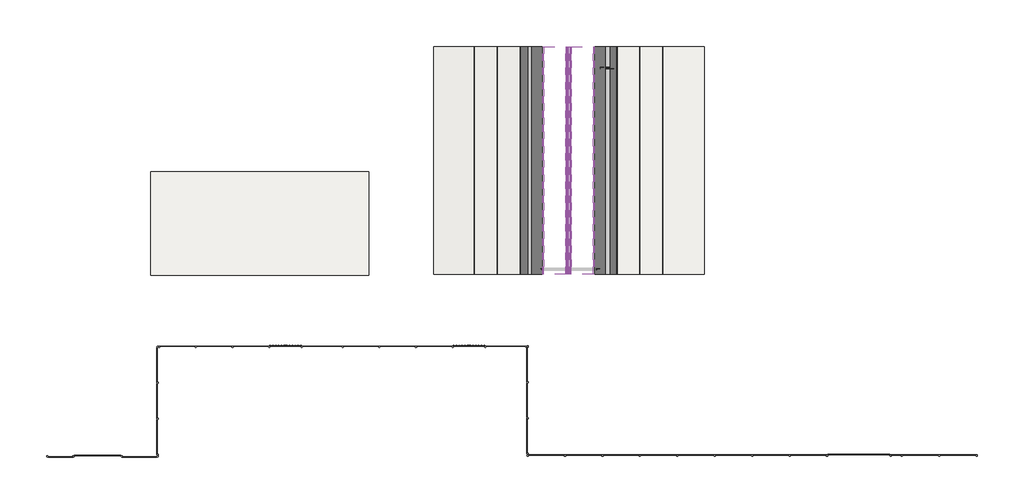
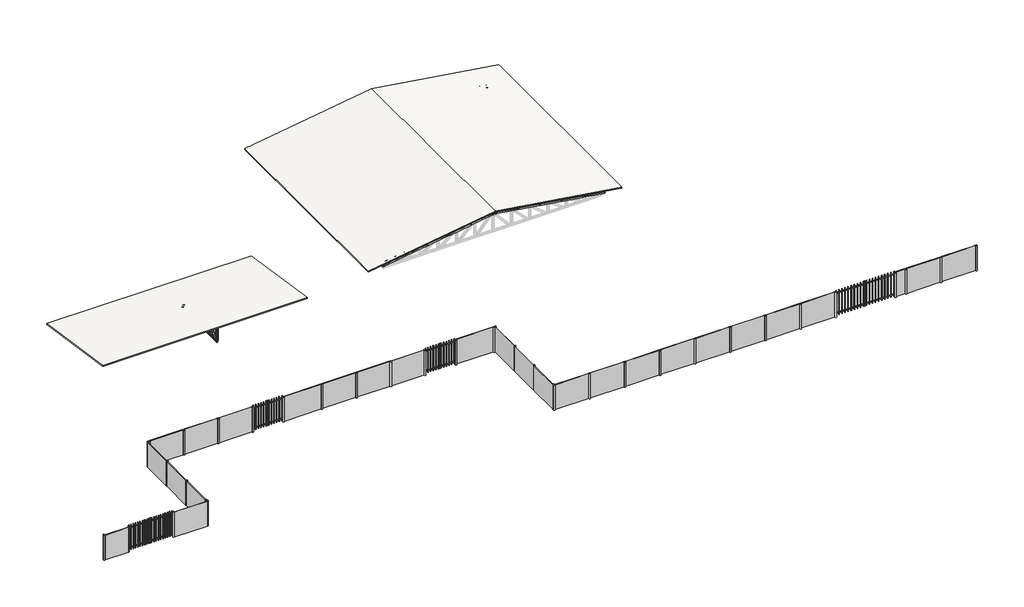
# One storey, part 1 of 3: 50 members, 39 plates, 12 beams, 4 doors, 2 roofs.
"""IFC4 building model written with IfcOpenShell, lengths in millimetres."""

from ifc_helpers import new_model, si_unit, point, frame, frame_2d, origin, place, context, project, spatial, polyline, circle_curve, trimmed, segment, composite_curve, outline, extrude, transform, mapped, element, save
from components import viga_c_10x10_58e1816c, viga_c_10x10_f8df9bf3, viga_c_10x10_b119d5ce, viga_c_10x10_62381ca0, viga_c_10x10_21cc423c, viga_c_10x10_41a7a066, viga_c_10x10_7d580f23, viga_c_10x10_08cb0fda, viga_c_10x10_b1578972, viga_c_10x10_ea181fc1, viga_c_10x10_0ee3ced8, door_7768011b, door_243d3cfc, door_13d7e7a6, montante_circular_50_mm_raio_659bf2f8, montante_circular_50_mm_raio_0fca540c, rectangular_mullion_12f81c36, rectangular_mullion_9b6f6b78, rectangular_mullion_457512c9, empty_system_panel_empty_771d9a7e, empty_system_panel_empty_a278fc1e, painel_do_sistema_5932a089, painel_do_sistema_ab7bcafd, painel_do_sistema_f98686fd, painel_do_sistema_e56fb110, painel_do_sistema_0934ba3d, painel_do_sistema_98f25257, painel_do_sistema_57f9a749, painel_do_sistema_0fee1ea1

model = new_model("IFC4")

# Units and contexts
model_context = context("Model", 3, world=origin())
ifc_project = project(units=[si_unit("LENGTHUNIT", "METRE", prefix="MILLI")], contexts=[model_context])

# Site, building, storey
site = spatial("IfcSite", under=ifc_project)
building = spatial("IfcBuilding", under=site)
storey = spatial("IfcBuildingStorey", under=building, Name="NÍVEL PLATIBANDA", Elevation=4700.0)

# Beams
placement = place(None, origin())
element("IfcBeam", 1, ObjectType="VIGA PERFIL C AÇO : VIGA C 10X10", at=placement, inside=storey, context=model_context, shape_type="SweptSolid", body=[
    extrude(outline(composite_curve([segment(trimmed(circle_curve(frame_2d((-3778.5798161, -3482.8461532)), 3.8), [point((-3782.3798161, -3482.8461532))], [point((-3778.5798161, -3479.0461532))], False, "CARTESIAN"), True, "CONTINUOUS"), segment(polyline([(-3778.5798161, -3479.0461532), (-3686.1798161, -3479.0461532)]), True, "CONTINUOUS"), segment(trimmed(circle_curve(frame_2d((-3686.1798161, -3482.8461532)), 3.8), [point((-3686.1798161, -3479.0461532))], [point((-3682.3798161, -3482.8461532))], False, "CARTESIAN"), True, "CONTINUOUS"), segment(polyline([(-3682.3798161, -3482.8461532), (-3682.3798161, -3499.0461532), (-3684.2798161, -3499.0461532), (-3684.2798161, -3482.8461532)]), True, "CONTINUOUS"), segment(trimmed(circle_curve(frame_2d((-3686.1798161, -3482.8461532)), 1.9), [point((-3684.2798161, -3482.8461532))], [point((-3686.1798161, -3480.9461532))], True, "CARTESIAN"), True, "CONTINUOUS"), segment(polyline([(-3686.1798161, -3480.9461532), (-3778.5798161, -3480.9461532)]), True, "CONTINUOUS"), segment(trimmed(circle_curve(frame_2d((-3778.5798161, -3482.8461532)), 1.9), [point((-3778.5798161, -3480.9461532))], [point((-3780.4798161, -3482.8461532))], True, "CARTESIAN"), True, "CONTINUOUS"), segment(polyline([(-3780.4798161, -3482.8461532), (-3780.4798161, -3575.2461532)]), True, "CONTINUOUS"), segment(trimmed(circle_curve(frame_2d((-3778.5798161, -3575.2461532)), 1.9), [point((-3780.4798161, -3575.2461532))], [point((-3778.5798161, -3577.1461532))], True, "CARTESIAN"), True, "CONTINUOUS"), segment(polyline([(-3778.5798161, -3577.1461532), (-3686.1798161, -3577.1461532)]), True, "CONTINUOUS"), segment(trimmed(circle_curve(frame_2d((-3686.1798161, -3575.2461532)), 1.9), [point((-3686.1798161, -3577.1461532))], [point((-3684.2798161, -3575.2461532))], True, "CARTESIAN"), True, "CONTINUOUS"), segment(polyline([(-3684.2798161, -3575.2461532), (-3684.2798161, -3559.0461532), (-3682.3798161, -3559.0461532), (-3682.3798161, -3575.2461532)]), True, "CONTINUOUS"), segment(trimmed(circle_curve(frame_2d((-3686.1798161, -3575.2461532)), 3.8), [point((-3682.3798161, -3575.2461532))], [point((-3686.1798161, -3579.0461532))], False, "CARTESIAN"), True, "CONTINUOUS"), segment(polyline([(-3686.1798161, -3579.0461532), (-3778.5798161, -3579.0461532)]), True, "CONTINUOUS"), segment(trimmed(circle_curve(frame_2d((-3778.5798161, -3575.2461532)), 3.8), [point((-3778.5798161, -3579.0461532))], [point((-3782.3798161, -3575.2461532))], False, "CARTESIAN"), True, "CONTINUOUS"), segment(polyline([(-3782.3798161, -3575.2461532), (-3782.3798161, -3482.8461532)]), True, "CONTINUOUS")], self_intersect=False)), frame((0.0, 0.0, 4804.3625534), z_axis=(0.0, 0.0, 1.0), x_axis=(1.0, 0.0, 0.0)), (0.0, 0.0, 1.0), 238.0),
    extrude(outline(polyline([(-3782.3798161, -3479.0461532), (-3682.3798161, -3479.0461532), (-3682.3798161, -3499.0461532), (-3684.2798161, -3499.0461532), (-3684.2798161, -3480.9461532), (-3780.4798161, -3480.9461532), (-3780.4798161, -3577.1461532), (-3684.2798161, -3577.1461532), (-3684.2798161, -3559.0461532), (-3682.3798161, -3559.0461532), (-3682.3798161, -3579.0461532), (-3782.3798161, -3579.0461532), (-3782.3798161, -3479.0461532)])), frame((0.0, 0.0, 4804.3625534), z_axis=(0.0, 0.0, 1.0), x_axis=(1.0, 0.0, 0.0)), (0.0, 0.0, 1.0), 238.0),
])
viga_c_10x10_shape = viga_c_10x10_58e1816c(model_context)
element("IfcBeam", 2, ObjectType="VIGA PERFIL C AÇO : VIGA C 10X10", at=placement, inside=storey, context=model_context, shape_type="MappedRepresentation", body=[
    mapped(viga_c_10x10_shape, transform((-15299.1331456, -1163.331442, 3550.0), x_axis=(0.0, 1.0, 0.0), y_axis=(0.0, 0.0, -1.0), z_axis=(-1.0, 0.0, 0.0))),
])
viga_c_10x10_2_shape = viga_c_10x10_f8df9bf3(model_context)
element("IfcBeam", 3, ObjectType="VIGA PERFIL C AÇO : VIGA C 10X10", at=placement, inside=storey, context=model_context, shape_type="MappedRepresentation", body=[
    mapped(viga_c_10x10_2_shape, transform((-15299.1331456, -576.3065507, 4065.1541708), x_axis=(0.0, 0.9889363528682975, -0.14834045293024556), y_axis=(0.0, 0.14834045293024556, 0.9889363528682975), z_axis=(1.0000000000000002, 0.0, 0.0))),
])
viga_c_10x10_3_shape = viga_c_10x10_b119d5ce(model_context)
element("IfcBeam", 4, ObjectType="VIGA PERFIL C AÇO : VIGA C 10X10", at=placement, inside=storey, context=model_context, shape_type="MappedRepresentation", body=[
    mapped(viga_c_10x10_3_shape, transform((-15299.1331456, -256.6647753, 3783.6039522), x_axis=(0.0, 0.0, 1.0), y_axis=(0.0, -1.0, 0.0), z_axis=(1.0, 0.0, 0.0))),
])
viga_c_10x10_4_shape = viga_c_10x10_62381ca0(model_context)
element("IfcBeam", 5, ObjectType="VIGA PERFIL C AÇO : VIGA C 10X10", at=placement, inside=storey, context=model_context, shape_type="MappedRepresentation", body=[
    mapped(viga_c_10x10_4_shape, transform((-15299.1331456, -2976.6647753, 3987.6039522), x_axis=(0.0, 0.0, 1.0), y_axis=(0.0, -1.0, 0.0), z_axis=(1.0, 0.0, 0.0))),
])
viga_c_10x10_5_shape = viga_c_10x10_21cc423c(model_context)
element("IfcBeam", 6, ObjectType="VIGA PERFIL C AÇO : VIGA C 10X10", at=placement, inside=storey, context=model_context, shape_type="MappedRepresentation", body=[
    mapped(viga_c_10x10_5_shape, transform((-15299.1331456, -3883.331442, 4055.6039522), x_axis=(0.0, 0.0, 1.0), y_axis=(0.0, -1.0, 0.0), z_axis=(1.0, 0.0, 0.0))),
])
viga_c_10x10_6_shape = viga_c_10x10_41a7a066(model_context)
element("IfcBeam", 7, ObjectType="VIGA PERFIL C AÇO : VIGA C 10X10", at=placement, inside=storey, context=model_context, shape_type="MappedRepresentation", body=[
    mapped(viga_c_10x10_6_shape, transform((-15299.1331456, -2069.9981086, 3919.6039522), x_axis=(0.0, 0.0, 1.0), y_axis=(0.0, -1.0, 0.0), z_axis=(1.0, 0.0, 0.0))),
])
viga_c_10x10_7_shape = viga_c_10x10_7d580f23(model_context)
element("IfcBeam", 8, ObjectType="VIGA PERFIL C AÇO : VIGA C 10X10", at=placement, inside=storey, context=model_context, shape_type="MappedRepresentation", body=[
    mapped(viga_c_10x10_7_shape, transform((-15299.1331456, -1163.331442, 3851.6039522), x_axis=(0.0, 0.0, 1.0), y_axis=(0.0, -1.0, 0.0), z_axis=(1.0, 0.0, 0.0))),
])
viga_c_10x10_8_shape = viga_c_10x10_08cb0fda(model_context)
element("IfcBeam", 9, ObjectType="VIGA PERFIL C AÇO : VIGA C 10X10", at=placement, inside=storey, context=model_context, shape_type="MappedRepresentation", body=[
    mapped(viga_c_10x10_8_shape, transform((-15299.1331456, -709.9981086, 3851.6039522), x_axis=(0.0, 0.832573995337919, -0.5539138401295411), y_axis=(0.0, 0.5539138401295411, 0.832573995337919), z_axis=(1.0, 0.0, 0.0))),
])
viga_c_10x10_9_shape = viga_c_10x10_b1578972(model_context)
element("IfcBeam", 10, ObjectType="VIGA PERFIL C AÇO : VIGA C 10X10", at=placement, inside=storey, context=model_context, shape_type="MappedRepresentation", body=[
    mapped(viga_c_10x10_9_shape, transform((-15299.1331456, -2523.331442, 3919.6039522), x_axis=(0.0, 0.775049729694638, 0.6319002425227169), y_axis=(0.0, -0.6319002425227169, 0.775049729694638), z_axis=(1.0, 0.0, 0.0))),
])
viga_c_10x10_10_shape = viga_c_10x10_ea181fc1(model_context)
element("IfcBeam", 11, ObjectType="VIGA PERFIL C AÇO : VIGA C 10X10", at=placement, inside=storey, context=model_context, shape_type="MappedRepresentation", body=[
    mapped(viga_c_10x10_10_shape, transform((-15299.1331456, -3429.9981086, 3987.6039522), x_axis=(0.0, 0.7194785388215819, 0.6945146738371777), y_axis=(0.0, -0.6945146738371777, 0.7194785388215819), z_axis=(1.0, 0.0, 0.0))),
])
viga_c_10x10_11_shape = viga_c_10x10_0ee3ced8(model_context)
element("IfcBeam", 12, ObjectType="VIGA PERFIL C AÇO : VIGA C 10X10", at=placement, inside=storey, context=model_context, shape_type="MappedRepresentation", body=[
    mapped(viga_c_10x10_11_shape, transform((-15299.1331456, -1616.6647753, 3851.6039522), x_axis=(0.0, 0.832573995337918, 0.5539138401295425), y_axis=(0.0, -0.5539138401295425, 0.832573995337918), z_axis=(1.0, 0.0, 0.0))),
])

# Doors
door_shape = door_7768011b(model_context)
element("IfcDoor", 13, ObjectType="PORTÃO DUPLO PAREDE CORTINA : PORTÃO DUPLO 4M", at=placement, inside=storey, context=model_context, shape_type="MappedRepresentation", body=[
    mapped(door_shape, transform((22436.7026381, -15523.3631447, -50.0), x_axis=(1.0, 0.0, 0.0), y_axis=(0.0, 1.0, 0.0), z_axis=(0.0, 0.0, 1.0))),
])
door_2_shape = door_243d3cfc(model_context)
element("IfcDoor", 14, ObjectType="PORTÃO DUPLO PAREDE CORTINA : PORTÃO DUPLO 2M 2", at=placement, inside=storey, context=model_context, shape_type="MappedRepresentation", body=[
    mapped(door_2_shape, transform((-14484.0085803, -8521.0235359, -50.0), x_axis=(1.0, 0.0, 0.0), y_axis=(0.0, 1.0, 0.0), z_axis=(0.0, 0.0, 1.0))),
])
element("IfcDoor", 15, ObjectType="PORTÃO DUPLO PAREDE CORTINA : PORTÃO DUPLO 2M 2", at=placement, inside=storey, context=model_context, shape_type="MappedRepresentation", body=[
    mapped(door_2_shape, transform((-2668.9858354, -8521.0235359, -50.0), x_axis=(1.0, 0.0, 0.0), y_axis=(0.0, 1.0, 0.0), z_axis=(0.0, 0.0, 1.0))),
])
door_3_shape = door_13d7e7a6(model_context)
element("IfcDoor", 16, ObjectType="PORTÃO DUPLO PAREDE CORTINA : PORTÃO DUPLO 3M", at=placement, inside=storey, context=model_context, shape_type="MappedRepresentation", body=[
    mapped(door_3_shape, transform((-26589.6888944, -15581.0235359, -50.0), x_axis=(-1.0, 0.0, 0.0), y_axis=(0.0, -1.0, 0.0), z_axis=(0.0, 0.0, 1.0))),
])

# Members
montante_circular_50_mm_raio_shape = montante_circular_50_mm_raio_659bf2f8(model_context)
element("IfcMember", 17, ObjectType="Montante circular : 50 mm Raio", at=placement, inside=storey, context=model_context, shape_type="MappedRepresentation", body=[
    mapped(montante_circular_50_mm_raio_shape, transform((-25039.6888944, -15581.0235359, -50.0), x_axis=(-1.0, 0.0, 0.0), y_axis=(0.0, 1.0, 0.0), z_axis=(0.0, 0.0, -1.0))),
])
element("IfcMember", 18, ObjectType="Montante circular : 50 mm Raio", at=placement, inside=storey, context=model_context, shape_type="MappedRepresentation", body=[
    mapped(montante_circular_50_mm_raio_shape, transform((-28139.6888944, -15581.0235359, -50.0), x_axis=(-1.0, 0.0, 0.0), y_axis=(0.0, 1.0, 0.0), z_axis=(0.0, 0.0, -1.0))),
])
element("IfcMember", 19, ObjectType="Montante circular : 50 mm Raio", at=placement, inside=storey, context=model_context, shape_type="MappedRepresentation", body=[
    mapped(montante_circular_50_mm_raio_shape, transform((-22723.0222276, -13161.0235358, -50.0), x_axis=(0.0, 1.0, 0.0), y_axis=(1.0, 0.0, 0.0), z_axis=(0.0, 0.0, -1.0))),
])
element("IfcMember", 20, ObjectType="Montante circular : 50 mm Raio", at=placement, inside=storey, context=model_context, shape_type="MappedRepresentation", body=[
    mapped(montante_circular_50_mm_raio_shape, transform((-22723.0222276, -10841.023536, -50.0), x_axis=(0.0, 1.0, 0.0), y_axis=(1.0, 0.0, 0.0), z_axis=(0.0, 0.0, -1.0))),
])
element("IfcMember", 21, ObjectType="Montante circular : 50 mm Raio", at=placement, inside=storey, context=model_context, shape_type="MappedRepresentation", body=[
    mapped(montante_circular_50_mm_raio_shape, transform((-20260.0176783, -8521.0235359, -50.0), x_axis=(1.0, 0.0, 0.0), y_axis=(0.0, -1.0, 0.0), z_axis=(0.0, 0.0, -1.0))),
])
element("IfcMember", 22, ObjectType="Montante circular : 50 mm Raio", at=placement, inside=storey, context=model_context, shape_type="MappedRepresentation", body=[
    mapped(montante_circular_50_mm_raio_shape, transform((-17897.0131293, -8521.0235359, -50.0), x_axis=(1.0, 0.0, 0.0), y_axis=(0.0, -1.0, 0.0), z_axis=(0.0, 0.0, -1.0))),
])
element("IfcMember", 23, ObjectType="Montante circular : 50 mm Raio", at=placement, inside=storey, context=model_context, shape_type="MappedRepresentation", body=[
    mapped(montante_circular_50_mm_raio_shape, transform((-15534.0085803, -8521.0235359, -50.0), x_axis=(1.0, 0.0, 0.0), y_axis=(0.0, -1.0, 0.0), z_axis=(0.0, 0.0, -1.0))),
])
element("IfcMember", 24, ObjectType="Montante circular : 50 mm Raio", at=placement, inside=storey, context=model_context, shape_type="MappedRepresentation", body=[
    mapped(montante_circular_50_mm_raio_shape, transform((-13434.0085803, -8521.0235359, -50.0), x_axis=(1.0, 0.0, 0.0), y_axis=(0.0, -1.0, 0.0), z_axis=(0.0, 0.0, -1.0))),
])
element("IfcMember", 25, ObjectType="Montante circular : 50 mm Raio", at=placement, inside=storey, context=model_context, shape_type="MappedRepresentation", body=[
    mapped(montante_circular_50_mm_raio_shape, transform((-10807.9994824, -8521.0235359, -50.0), x_axis=(1.0, 0.0, 0.0), y_axis=(0.0, -1.0, 0.0), z_axis=(0.0, 0.0, -1.0))),
])
element("IfcMember", 26, ObjectType="Montante circular : 50 mm Raio", at=placement, inside=storey, context=model_context, shape_type="MappedRepresentation", body=[
    mapped(montante_circular_50_mm_raio_shape, transform((-8444.9949334, -8521.0235359, -50.0), x_axis=(1.0, 0.0, 0.0), y_axis=(0.0, -1.0, 0.0), z_axis=(0.0, 0.0, -1.0))),
])
element("IfcMember", 27, ObjectType="Montante circular : 50 mm Raio", at=placement, inside=storey, context=model_context, shape_type="MappedRepresentation", body=[
    mapped(montante_circular_50_mm_raio_shape, transform((-6081.9903844, -8521.0235359, -50.0), x_axis=(1.0, 0.0, 0.0), y_axis=(0.0, -1.0, 0.0), z_axis=(0.0, 0.0, -1.0))),
])
element("IfcMember", 28, ObjectType="Montante circular : 50 mm Raio", at=placement, inside=storey, context=model_context, shape_type="MappedRepresentation", body=[
    mapped(montante_circular_50_mm_raio_shape, transform((-3718.9858354, -8521.0235359, -50.0), x_axis=(1.0, 0.0, 0.0), y_axis=(0.0, -1.0, 0.0), z_axis=(0.0, 0.0, -1.0))),
])
element("IfcMember", 29, ObjectType="Montante circular : 50 mm Raio", at=placement, inside=storey, context=model_context, shape_type="MappedRepresentation", body=[
    mapped(montante_circular_50_mm_raio_shape, transform((-1618.9858354, -8521.0235359, -50.0), x_axis=(1.0, 0.0, 0.0), y_axis=(0.0, -1.0, 0.0), z_axis=(0.0, 0.0, -1.0))),
])
element("IfcMember", 30, ObjectType="Montante circular : 50 mm Raio", at=placement, inside=storey, context=model_context, shape_type="MappedRepresentation", body=[
    mapped(montante_circular_50_mm_raio_shape, transform((3517.0961537, -15523.3631447, -50.0), x_axis=(1.0, 0.0, 0.0), y_axis=(0.0, -1.0, 0.0), z_axis=(0.0, 0.0, -1.0))),
])
element("IfcMember", 31, ObjectType="Montante circular : 50 mm Raio", at=placement, inside=storey, context=model_context, shape_type="MappedRepresentation", body=[
    mapped(montante_circular_50_mm_raio_shape, transform((5927.0399372, -15523.3631447, -50.0), x_axis=(1.0, 0.0, 0.0), y_axis=(0.0, -1.0, 0.0), z_axis=(0.0, 0.0, -1.0))),
])
element("IfcMember", 32, ObjectType="Montante circular : 50 mm Raio", at=placement, inside=storey, context=model_context, shape_type="MappedRepresentation", body=[
    mapped(montante_circular_50_mm_raio_shape, transform((8336.9837207, -15523.3631447, -50.0), x_axis=(1.0, 0.0, 0.0), y_axis=(0.0, -1.0, 0.0), z_axis=(0.0, 0.0, -1.0))),
])
element("IfcMember", 33, ObjectType="Montante circular : 50 mm Raio", at=placement, inside=storey, context=model_context, shape_type="MappedRepresentation", body=[
    mapped(montante_circular_50_mm_raio_shape, transform((10746.9275042, -15523.3631447, -50.0), x_axis=(1.0, 0.0, 0.0), y_axis=(0.0, -1.0, 0.0), z_axis=(0.0, 0.0, -1.0))),
])
element("IfcMember", 34, ObjectType="Montante circular : 50 mm Raio", at=placement, inside=storey, context=model_context, shape_type="MappedRepresentation", body=[
    mapped(montante_circular_50_mm_raio_shape, transform((13156.8712876, -15523.3631447, -50.0), x_axis=(1.0, 0.0, 0.0), y_axis=(0.0, -1.0, 0.0), z_axis=(0.0, 0.0, -1.0))),
])
element("IfcMember", 35, ObjectType="Montante circular : 50 mm Raio", at=placement, inside=storey, context=model_context, shape_type="MappedRepresentation", body=[
    mapped(montante_circular_50_mm_raio_shape, transform((15566.8150711, -15523.3631447, -50.0), x_axis=(1.0, 0.0, 0.0), y_axis=(0.0, -1.0, 0.0), z_axis=(0.0, 0.0, -1.0))),
])
element("IfcMember", 36, ObjectType="Montante circular : 50 mm Raio", at=placement, inside=storey, context=model_context, shape_type="MappedRepresentation", body=[
    mapped(montante_circular_50_mm_raio_shape, transform((17976.7588546, -15523.3631447, -50.0), x_axis=(1.0, 0.0, 0.0), y_axis=(0.0, -1.0, 0.0), z_axis=(0.0, 0.0, -1.0))),
])
element("IfcMember", 37, ObjectType="Montante circular : 50 mm Raio", at=placement, inside=storey, context=model_context, shape_type="MappedRepresentation", body=[
    mapped(montante_circular_50_mm_raio_shape, transform((20386.7026381, -15523.3631447, -50.0), x_axis=(1.0, 0.0, 0.0), y_axis=(0.0, -1.0, 0.0), z_axis=(0.0, 0.0, -1.0))),
])
element("IfcMember", 38, ObjectType="Montante circular : 50 mm Raio", at=placement, inside=storey, context=model_context, shape_type="MappedRepresentation", body=[
    mapped(montante_circular_50_mm_raio_shape, transform((24486.7026381, -15523.3631447, -50.0), x_axis=(1.0, 0.0, 0.0), y_axis=(0.0, -1.0, 0.0), z_axis=(0.0, 0.0, -1.0))),
])
element("IfcMember", 39, ObjectType="Montante circular : 50 mm Raio", at=placement, inside=storey, context=model_context, shape_type="MappedRepresentation", body=[
    mapped(montante_circular_50_mm_raio_shape, transform((25206.5902051, -15523.3631447, -50.0), x_axis=(1.0, 0.0, 0.0), y_axis=(0.0, -1.0, 0.0), z_axis=(0.0, 0.0, -1.0))),
])
element("IfcMember", 40, ObjectType="Montante circular : 50 mm Raio", at=placement, inside=storey, context=model_context, shape_type="MappedRepresentation", body=[
    mapped(montante_circular_50_mm_raio_shape, transform((27616.5339886, -15523.3631447, -50.0), x_axis=(1.0, 0.0, 0.0), y_axis=(0.0, -1.0, 0.0), z_axis=(0.0, 0.0, -1.0))),
])
element("IfcMember", 41, ObjectType="Montante circular : 50 mm Raio", at=placement, inside=storey, context=model_context, shape_type="MappedRepresentation", body=[
    mapped(montante_circular_50_mm_raio_shape, transform((1107.1523699, -13116.696478, -50.0), x_axis=(0.0, 1.0, 0.0), y_axis=(1.0, 0.0, 0.0), z_axis=(0.0, 0.0, -1.0))),
])
element("IfcMember", 42, ObjectType="Montante circular : 50 mm Raio", at=placement, inside=storey, context=model_context, shape_type="MappedRepresentation", body=[
    mapped(montante_circular_50_mm_raio_shape, transform((1107.1523699, -10810.0298115, -50.0), x_axis=(0.0, 1.0, 0.0), y_axis=(1.0, 0.0, 0.0), z_axis=(0.0, 0.0, -1.0))),
])
montante_circular_50_mm_raio_2_shape = montante_circular_50_mm_raio_0fca540c(model_context)
element("IfcMember", 43, ObjectType="Montante circular : 50 mm Raio", at=placement, inside=storey, context=model_context, shape_type="MappedRepresentation", body=[
    mapped(montante_circular_50_mm_raio_2_shape, transform((-29873.0222276, -15581.0235359, -50.0), x_axis=(-1.0, 0.0, 0.0), y_axis=(0.0, 1.0, 0.0), z_axis=(0.0, 0.0, -1.0))),
])
element("IfcMember", 44, ObjectType="Montante circular : 50 mm Raio", at=placement, inside=storey, context=model_context, shape_type="MappedRepresentation", body=[
    mapped(montante_circular_50_mm_raio_2_shape, transform((-22723.0222276, -8471.0235359, -50.0), x_axis=(0.0, 1.0, 0.0), y_axis=(1.0, 0.0, 0.0), z_axis=(0.0, 0.0, -1.0))),
])
element("IfcMember", 45, ObjectType="Montante circular : 50 mm Raio", at=placement, inside=storey, context=model_context, shape_type="MappedRepresentation", body=[
    mapped(montante_circular_50_mm_raio_2_shape, transform((1057.0232629, -8521.0235359, -50.0), x_axis=(1.0, 0.0, 0.0), y_axis=(0.0, -1.0, 0.0), z_axis=(0.0, 0.0, -1.0))),
])
element("IfcMember", 46, ObjectType="Montante circular : 50 mm Raio", at=placement, inside=storey, context=model_context, shape_type="MappedRepresentation", body=[
    mapped(montante_circular_50_mm_raio_2_shape, transform((30076.4777724, -15523.3631447, -50.0), x_axis=(1.0, 0.0, 0.0), y_axis=(0.0, -1.0, 0.0), z_axis=(0.0, 0.0, -1.0))),
])
element("IfcMember", 47, ObjectType="Montante circular : 50 mm Raio", at=placement, inside=storey, context=model_context, shape_type="MappedRepresentation", body=[
    mapped(montante_circular_50_mm_raio_2_shape, transform((1107.1523699, -8453.3631447, -50.0), x_axis=(0.0, 1.0, 0.0), y_axis=(1.0, 0.0, 0.0), z_axis=(0.0, 0.0, -1.0))),
])
element("IfcMember", 48, ObjectType="Montante circular : 50 mm Raio", at=placement, inside=storey, context=model_context, shape_type="MappedRepresentation", body=[
    mapped(montante_circular_50_mm_raio_2_shape, transform((-22673.0222276, -15581.0235359, 1750.0), x_axis=(1.0, 0.0, 0.0), y_axis=(0.0, 1.0, 0.0), z_axis=(0.0, 0.0, 1.0))),
])
element("IfcMember", 49, ObjectType="Montante circular : 50 mm Raio", at=placement, inside=storey, context=model_context, shape_type="MappedRepresentation", body=[
    mapped(montante_circular_50_mm_raio_2_shape, transform((-22723.0222276, -15531.0235359, 1750.0), x_axis=(0.0, -1.0, 0.0), y_axis=(1.0, 0.0, 0.0), z_axis=(0.0, 0.0, 1.0))),
])
element("IfcMember", 50, ObjectType="Montante circular : 50 mm Raio", at=placement, inside=storey, context=model_context, shape_type="MappedRepresentation", body=[
    mapped(montante_circular_50_mm_raio_2_shape, transform((-22673.0222276, -8521.0235359, 1750.0), x_axis=(-1.0, 0.0, 0.0), y_axis=(0.0, -1.0, 0.0), z_axis=(0.0, 0.0, 1.0))),
])
element("IfcMember", 51, ObjectType="Montante circular : 50 mm Raio", at=placement, inside=storey, context=model_context, shape_type="MappedRepresentation", body=[
    mapped(montante_circular_50_mm_raio_2_shape, transform((1057.1523699, -15523.3631447, 1750.0), x_axis=(-1.0, 0.0, 0.0), y_axis=(0.0, -1.0, 0.0), z_axis=(0.0, 0.0, 1.0))),
])
element("IfcMember", 52, ObjectType="Montante circular : 50 mm Raio", at=placement, inside=storey, context=model_context, shape_type="MappedRepresentation", body=[
    mapped(montante_circular_50_mm_raio_2_shape, transform((1107.1523699, -15473.3631447, 1750.0), x_axis=(0.0, -1.0, 0.0), y_axis=(1.0, 0.0, 0.0), z_axis=(0.0, 0.0, 1.0))),
])
rectangular_mullion_shape = rectangular_mullion_12f81c36(model_context)
element("IfcMember", 53, ObjectType="Rectangular Mullion : TERÇA METÁLICA 10CM", at=placement, inside=storey, context=model_context, shape_type="MappedRepresentation", body=[
    mapped(rectangular_mullion_shape, transform((11326.8201839, 10813.8563425, 5065.0), x_axis=(0.9889363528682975, 0.0, -0.14834045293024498), y_axis=(-0.14834045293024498, 0.0, -0.9889363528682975), z_axis=(0.0, 1.0, 0.0))),
])
element("IfcMember", 54, ObjectType="Rectangular Mullion : TERÇA METÁLICA 10CM", at=placement, inside=storey, context=model_context, shape_type="MappedRepresentation", body=[
    mapped(rectangular_mullion_shape, transform((-3848.1798161, -3838.2411617, 5065.0), x_axis=(-0.9889363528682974, 0.0, -0.1483404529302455), y_axis=(0.1483404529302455, 0.0, -0.9889363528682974), z_axis=(0.0, -1.0, 0.0))),
])
rectangular_mullion_2_shape = rectangular_mullion_9b6f6b78(model_context)
element("IfcMember", 55, ObjectType="Rectangular Mullion : TERÇA METÁLICA 10CM", at=placement, inside=storey, context=model_context, shape_type="MappedRepresentation", body=[
    mapped(rectangular_mullion_2_shape, transform((3739.3201839, -3838.2411617, 6203.125), x_axis=(-0.9889363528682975, 0.0, 0.14834045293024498), y_axis=(-0.14834045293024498, 0.0, -0.9889363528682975), z_axis=(0.0, -1.0, 0.0))),
])
element("IfcMember", 56, ObjectType="Rectangular Mullion : TERÇA METÁLICA 10CM", at=placement, inside=storey, context=model_context, shape_type="MappedRepresentation", body=[
    mapped(rectangular_mullion_2_shape, transform((3739.3201839, 10813.8563425, 6203.125), x_axis=(0.9889363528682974, 0.0, 0.1483404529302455), y_axis=(0.1483404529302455, 0.0, -0.9889363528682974), z_axis=(0.0, 1.0, 0.0))),
])
rectangular_mullion_3_shape = rectangular_mullion_457512c9(model_context)
element("IfcMember", 57, ObjectType="Rectangular Mullion : TERÇA METÁLICA 10CM", at=placement, inside=storey, context=model_context, shape_type="MappedRepresentation", body=[
    mapped(rectangular_mullion_3_shape, transform((9843.4156546, -3838.2411617, 5287.5106794), x_axis=(-0.9889363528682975, 0.0, 0.14834045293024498), y_axis=(-0.14834045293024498, 0.0, -0.9889363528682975), z_axis=(0.0, -1.0, 0.0))),
])
element("IfcMember", 58, ObjectType="Rectangular Mullion : TERÇA METÁLICA 10CM", at=placement, inside=storey, context=model_context, shape_type="MappedRepresentation", body=[
    mapped(rectangular_mullion_3_shape, transform((8360.0111253, -3838.2411617, 5510.0213588), x_axis=(-0.9889363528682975, 0.0, 0.14834045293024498), y_axis=(-0.14834045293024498, 0.0, -0.9889363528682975), z_axis=(0.0, -1.0, 0.0))),
])
element("IfcMember", 59, ObjectType="Rectangular Mullion : TERÇA METÁLICA 10CM", at=placement, inside=storey, context=model_context, shape_type="MappedRepresentation", body=[
    mapped(rectangular_mullion_3_shape, transform((6876.606596, -3838.2411617, 5732.5320382), x_axis=(-0.9889363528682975, 0.0, 0.14834045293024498), y_axis=(-0.14834045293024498, 0.0, -0.9889363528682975), z_axis=(0.0, -1.0, 0.0))),
])
element("IfcMember", 60, ObjectType="Rectangular Mullion : TERÇA METÁLICA 10CM", at=placement, inside=storey, context=model_context, shape_type="MappedRepresentation", body=[
    mapped(rectangular_mullion_3_shape, transform((5393.2020667, -3838.2411617, 5955.0427176), x_axis=(-0.9889363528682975, 0.0, 0.14834045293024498), y_axis=(-0.14834045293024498, 0.0, -0.9889363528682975), z_axis=(0.0, -1.0, 0.0))),
])
element("IfcMember", 61, ObjectType="Rectangular Mullion : TERÇA METÁLICA 10CM", at=placement, inside=storey, context=model_context, shape_type="MappedRepresentation", body=[
    mapped(rectangular_mullion_3_shape, transform((3909.7975374, -3838.2411617, 6177.553397), x_axis=(-0.9889363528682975, 0.0, 0.14834045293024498), y_axis=(-0.14834045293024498, 0.0, -0.9889363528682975), z_axis=(0.0, -1.0, 0.0))),
])
element("IfcMember", 62, ObjectType="Rectangular Mullion : TERÇA METÁLICA 10CM", at=placement, inside=storey, context=model_context, shape_type="MappedRepresentation", body=[
    mapped(rectangular_mullion_3_shape, transform((-2364.7752868, 10813.8563425, 5287.5106794), x_axis=(0.9889363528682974, 0.0, 0.1483404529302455), y_axis=(0.1483404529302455, 0.0, -0.9889363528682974), z_axis=(0.0, 1.0, 0.0))),
])
element("IfcMember", 63, ObjectType="Rectangular Mullion : TERÇA METÁLICA 10CM", at=placement, inside=storey, context=model_context, shape_type="MappedRepresentation", body=[
    mapped(rectangular_mullion_3_shape, transform((-881.3707575, 10813.8563425, 5510.0213588), x_axis=(0.9889363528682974, 0.0, 0.1483404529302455), y_axis=(0.1483404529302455, 0.0, -0.9889363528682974), z_axis=(0.0, 1.0, 0.0))),
])
element("IfcMember", 64, ObjectType="Rectangular Mullion : TERÇA METÁLICA 10CM", at=placement, inside=storey, context=model_context, shape_type="MappedRepresentation", body=[
    mapped(rectangular_mullion_3_shape, transform((602.0337718, 10813.8563425, 5732.5320382), x_axis=(0.9889363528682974, 0.0, 0.1483404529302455), y_axis=(0.1483404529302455, 0.0, -0.9889363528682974), z_axis=(0.0, 1.0, 0.0))),
])
element("IfcMember", 65, ObjectType="Rectangular Mullion : TERÇA METÁLICA 10CM", at=placement, inside=storey, context=model_context, shape_type="MappedRepresentation", body=[
    mapped(rectangular_mullion_3_shape, transform((2085.4383011, 10813.8563425, 5955.0427176), x_axis=(0.9889363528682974, 0.0, 0.1483404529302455), y_axis=(0.1483404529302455, 0.0, -0.9889363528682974), z_axis=(0.0, 1.0, 0.0))),
])
element("IfcMember", 66, ObjectType="Rectangular Mullion : TERÇA METÁLICA 10CM", at=placement, inside=storey, context=model_context, shape_type="MappedRepresentation", body=[
    mapped(rectangular_mullion_3_shape, transform((3568.8428304, 10813.8563425, 6177.553397), x_axis=(0.9889363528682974, 0.0, 0.1483404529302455), y_axis=(0.1483404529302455, 0.0, -0.9889363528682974), z_axis=(0.0, 1.0, 0.0))),
])

# Plates
empty_system_panel_empty_shape = empty_system_panel_empty_771d9a7e(model_context)
element("IfcPlate", 67, ObjectType="Empty System Panel : Empty", at=placement, inside=storey, context=model_context, shape_type="MappedRepresentation", body=[
    mapped(empty_system_panel_empty_shape, transform((-3788.8436349, 3487.8075904, 5073.9004272), x_axis=(0.0, -1.0, 0.0), y_axis=(0.1483404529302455, 0.0, -0.9889363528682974), z_axis=(0.9889363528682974, 0.0, 0.1483404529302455))),
])
element("IfcPlate", 68, ObjectType="Empty System Panel : Empty", at=placement, inside=storey, context=model_context, shape_type="MappedRepresentation", body=[
    mapped(empty_system_panel_empty_shape, transform((11267.4840027, 3487.8075904, 5073.9004272), x_axis=(0.0, 1.0, 0.0), y_axis=(-0.14834045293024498, 0.0, -0.9889363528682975), z_axis=(-0.9889363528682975, 0.0, 0.14834045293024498))),
])
element("IfcPlate", 69, ObjectType="Empty System Panel : Empty", at=placement, inside=storey, context=model_context, shape_type="MappedRepresentation", body=[
    mapped(empty_system_panel_empty_shape, transform((-2305.4391056, 3487.8075904, 5296.4111066), x_axis=(0.0, -1.0, 0.0), y_axis=(0.1483404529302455, 0.0, -0.9889363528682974), z_axis=(0.9889363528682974, 0.0, 0.1483404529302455))),
])
element("IfcPlate", 70, ObjectType="Empty System Panel : Empty", at=placement, inside=storey, context=model_context, shape_type="MappedRepresentation", body=[
    mapped(empty_system_panel_empty_shape, transform((-822.0345763, 3487.8075904, 5518.921786), x_axis=(0.0, -1.0, 0.0), y_axis=(0.1483404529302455, 0.0, -0.9889363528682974), z_axis=(0.9889363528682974, 0.0, 0.1483404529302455))),
])
element("IfcPlate", 71, ObjectType="Empty System Panel : Empty", at=placement, inside=storey, context=model_context, shape_type="MappedRepresentation", body=[
    mapped(empty_system_panel_empty_shape, transform((661.369953, 3487.8075904, 5741.4324654), x_axis=(0.0, -1.0, 0.0), y_axis=(0.1483404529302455, 0.0, -0.9889363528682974), z_axis=(0.9889363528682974, 0.0, 0.1483404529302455))),
])
element("IfcPlate", 72, ObjectType="Empty System Panel : Empty", at=placement, inside=storey, context=model_context, shape_type="MappedRepresentation", body=[
    mapped(empty_system_panel_empty_shape, transform((2144.7744823, 3487.8075904, 5963.9431448), x_axis=(0.0, -1.0, 0.0), y_axis=(0.1483404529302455, 0.0, -0.9889363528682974), z_axis=(0.9889363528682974, 0.0, 0.1483404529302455))),
])
element("IfcPlate", 73, ObjectType="Empty System Panel : Empty", at=placement, inside=storey, context=model_context, shape_type="MappedRepresentation", body=[
    mapped(empty_system_panel_empty_shape, transform((9784.0794734, 3487.8075904, 5296.4111066), x_axis=(0.0, 1.0, 0.0), y_axis=(-0.14834045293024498, 0.0, -0.9889363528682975), z_axis=(-0.9889363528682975, 0.0, 0.14834045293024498))),
])
element("IfcPlate", 74, ObjectType="Empty System Panel : Empty", at=placement, inside=storey, context=model_context, shape_type="MappedRepresentation", body=[
    mapped(empty_system_panel_empty_shape, transform((8300.6749441, 3487.8075904, 5518.921786), x_axis=(0.0, 1.0, 0.0), y_axis=(-0.14834045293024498, 0.0, -0.9889363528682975), z_axis=(-0.9889363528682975, 0.0, 0.14834045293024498))),
])
element("IfcPlate", 75, ObjectType="Empty System Panel : Empty", at=placement, inside=storey, context=model_context, shape_type="MappedRepresentation", body=[
    mapped(empty_system_panel_empty_shape, transform((6817.2704148, 3487.8075904, 5741.4324654), x_axis=(0.0, 1.0, 0.0), y_axis=(-0.14834045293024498, 0.0, -0.9889363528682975), z_axis=(-0.9889363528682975, 0.0, 0.14834045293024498))),
])
element("IfcPlate", 76, ObjectType="Empty System Panel : Empty", at=placement, inside=storey, context=model_context, shape_type="MappedRepresentation", body=[
    mapped(empty_system_panel_empty_shape, transform((5333.8658855, 3487.8075904, 5963.9431448), x_axis=(0.0, 1.0, 0.0), y_axis=(-0.14834045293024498, 0.0, -0.9889363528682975), z_axis=(-0.9889363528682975, 0.0, 0.14834045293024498))),
])
empty_system_panel_empty_2_shape = empty_system_panel_empty_a278fc1e(model_context)
element("IfcPlate", 77, ObjectType="Empty System Panel : Empty", at=placement, inside=storey, context=model_context, shape_type="MappedRepresentation", body=[
    mapped(empty_system_panel_empty_2_shape, transform((3628.1790116, 3487.8075904, 6186.4538242), x_axis=(0.0, -1.0, 0.0), y_axis=(0.1483404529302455, 0.0, -0.9889363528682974), z_axis=(0.9889363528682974, 0.0, 0.1483404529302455))),
])
element("IfcPlate", 78, ObjectType="Empty System Panel : Empty", at=placement, inside=storey, context=model_context, shape_type="MappedRepresentation", body=[
    mapped(empty_system_panel_empty_2_shape, transform((3850.4613562, 3487.8075904, 6186.4538242), x_axis=(0.0, 1.0, 0.0), y_axis=(-0.14834045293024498, 0.0, -0.9889363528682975), z_axis=(-0.9889363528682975, 0.0, 0.14834045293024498))),
])
painel_do_sistema_shape = painel_do_sistema_5932a089(model_context)
element("IfcPlate", 79, ObjectType="Painel do sistema : ALAMBRADO", at=placement, inside=storey, context=model_context, shape_type="MappedRepresentation", body=[
    mapped(painel_do_sistema_shape, transform((-22723.0222276, -14321.0235358, -50.0), x_axis=(0.0, 1.0, 0.0), y_axis=(-1.0, 0.0, 0.0), z_axis=(0.0, 0.0, 1.0))),
])
element("IfcPlate", 80, ObjectType="Painel do sistema : ALAMBRADO", at=placement, inside=storey, context=model_context, shape_type="MappedRepresentation", body=[
    mapped(painel_do_sistema_shape, transform((-22723.0222276, -12001.0235359, -50.0), x_axis=(0.0, 1.0, 0.0), y_axis=(-1.0, 0.0, 0.0), z_axis=(0.0, 0.0, 1.0))),
])
element("IfcPlate", 81, ObjectType="Painel do sistema : ALAMBRADO", at=placement, inside=storey, context=model_context, shape_type="MappedRepresentation", body=[
    mapped(painel_do_sistema_shape, transform((-22723.0222276, -9681.0235359, -50.0), x_axis=(0.0, 1.0, 0.0), y_axis=(-1.0, 0.0, 0.0), z_axis=(0.0, 0.0, 1.0))),
])
painel_do_sistema_2_shape = painel_do_sistema_ab7bcafd(model_context)
element("IfcPlate", 82, ObjectType="Painel do sistema : ALAMBRADO", at=placement, inside=storey, context=model_context, shape_type="MappedRepresentation", body=[
    mapped(painel_do_sistema_2_shape, transform((-21441.519953, -8521.0235359, -50.0), x_axis=(1.0, 0.0, 0.0), y_axis=(0.0, 1.0, 0.0), z_axis=(0.0, 0.0, 1.0))),
])
element("IfcPlate", 83, ObjectType="Painel do sistema : ALAMBRADO", at=placement, inside=storey, context=model_context, shape_type="MappedRepresentation", body=[
    mapped(painel_do_sistema_2_shape, transform((-19078.5154038, -8521.0235359, -50.0), x_axis=(1.0, 0.0, 0.0), y_axis=(0.0, 1.0, 0.0), z_axis=(0.0, 0.0, 1.0))),
])
element("IfcPlate", 84, ObjectType="Painel do sistema : ALAMBRADO", at=placement, inside=storey, context=model_context, shape_type="MappedRepresentation", body=[
    mapped(painel_do_sistema_2_shape, transform((-16715.5108548, -8521.0235359, -50.0), x_axis=(1.0, 0.0, 0.0), y_axis=(0.0, 1.0, 0.0), z_axis=(0.0, 0.0, 1.0))),
])
element("IfcPlate", 85, ObjectType="Painel do sistema : ALAMBRADO", at=placement, inside=storey, context=model_context, shape_type="MappedRepresentation", body=[
    mapped(painel_do_sistema_2_shape, transform((-9626.4972079, -8521.0235359, -50.0), x_axis=(1.0, 0.0, 0.0), y_axis=(0.0, 1.0, 0.0), z_axis=(0.0, 0.0, 1.0))),
])
element("IfcPlate", 86, ObjectType="Painel do sistema : ALAMBRADO", at=placement, inside=storey, context=model_context, shape_type="MappedRepresentation", body=[
    mapped(painel_do_sistema_2_shape, transform((-7263.4926589, -8521.0235359, -50.0), x_axis=(1.0, 0.0, 0.0), y_axis=(0.0, 1.0, 0.0), z_axis=(0.0, 0.0, 1.0))),
])
element("IfcPlate", 87, ObjectType="Painel do sistema : ALAMBRADO", at=placement, inside=storey, context=model_context, shape_type="MappedRepresentation", body=[
    mapped(painel_do_sistema_2_shape, transform((-4900.4881099, -8521.0235359, -50.0), x_axis=(1.0, 0.0, 0.0), y_axis=(0.0, 1.0, 0.0), z_axis=(0.0, 0.0, 1.0))),
])
painel_do_sistema_3_shape = painel_do_sistema_f98686fd(model_context)
element("IfcPlate", 88, ObjectType="Painel do sistema : ALAMBRADO", at=placement, inside=storey, context=model_context, shape_type="MappedRepresentation", body=[
    mapped(painel_do_sistema_3_shape, transform((1107.1523699, -14270.0298113, -50.0), x_axis=(0.0, 1.0, 0.0), y_axis=(-1.0, 0.0, 0.0), z_axis=(0.0, 0.0, 1.0))),
])
element("IfcPlate", 89, ObjectType="Painel do sistema : ALAMBRADO", at=placement, inside=storey, context=model_context, shape_type="MappedRepresentation", body=[
    mapped(painel_do_sistema_3_shape, transform((1107.1523699, -11963.3631447, -50.0), x_axis=(0.0, 1.0, 0.0), y_axis=(-1.0, 0.0, 0.0), z_axis=(0.0, 0.0, 1.0))),
])
element("IfcPlate", 90, ObjectType="Painel do sistema : ALAMBRADO", at=placement, inside=storey, context=model_context, shape_type="MappedRepresentation", body=[
    mapped(painel_do_sistema_3_shape, transform((1107.1523699, -9656.6964781, -50.0), x_axis=(0.0, 1.0, 0.0), y_axis=(-1.0, 0.0, 0.0), z_axis=(0.0, 0.0, 1.0))),
])
painel_do_sistema_4_shape = painel_do_sistema_e56fb110(model_context)
element("IfcPlate", 91, ObjectType="Painel do sistema : ALAMBRADO", at=placement, inside=storey, context=model_context, shape_type="MappedRepresentation", body=[
    mapped(painel_do_sistema_4_shape, transform((2312.1242618, -15523.3631447, -50.0), x_axis=(1.0, 0.0, 0.0), y_axis=(0.0, 1.0, 0.0), z_axis=(0.0, 0.0, 1.0))),
])
element("IfcPlate", 92, ObjectType="Painel do sistema : ALAMBRADO", at=placement, inside=storey, context=model_context, shape_type="MappedRepresentation", body=[
    mapped(painel_do_sistema_4_shape, transform((4722.0680454, -15523.3631447, -50.0), x_axis=(1.0, 0.0, 0.0), y_axis=(0.0, 1.0, 0.0), z_axis=(0.0, 0.0, 1.0))),
])
element("IfcPlate", 93, ObjectType="Painel do sistema : ALAMBRADO", at=placement, inside=storey, context=model_context, shape_type="MappedRepresentation", body=[
    mapped(painel_do_sistema_4_shape, transform((7132.0118289, -15523.3631447, -50.0), x_axis=(1.0, 0.0, 0.0), y_axis=(0.0, 1.0, 0.0), z_axis=(0.0, 0.0, 1.0))),
])
element("IfcPlate", 94, ObjectType="Painel do sistema : ALAMBRADO", at=placement, inside=storey, context=model_context, shape_type="MappedRepresentation", body=[
    mapped(painel_do_sistema_4_shape, transform((9541.9556124, -15523.3631447, -50.0), x_axis=(1.0, 0.0, 0.0), y_axis=(0.0, 1.0, 0.0), z_axis=(0.0, 0.0, 1.0))),
])
element("IfcPlate", 95, ObjectType="Painel do sistema : ALAMBRADO", at=placement, inside=storey, context=model_context, shape_type="MappedRepresentation", body=[
    mapped(painel_do_sistema_4_shape, transform((11951.8993959, -15523.3631447, -50.0), x_axis=(1.0, 0.0, 0.0), y_axis=(0.0, 1.0, 0.0), z_axis=(0.0, 0.0, 1.0))),
])
element("IfcPlate", 96, ObjectType="Painel do sistema : ALAMBRADO", at=placement, inside=storey, context=model_context, shape_type="MappedRepresentation", body=[
    mapped(painel_do_sistema_4_shape, transform((14361.8431794, -15523.3631447, -50.0), x_axis=(1.0, 0.0, 0.0), y_axis=(0.0, 1.0, 0.0), z_axis=(0.0, 0.0, 1.0))),
])
element("IfcPlate", 97, ObjectType="Painel do sistema : ALAMBRADO", at=placement, inside=storey, context=model_context, shape_type="MappedRepresentation", body=[
    mapped(painel_do_sistema_4_shape, transform((16771.7869629, -15523.3631447, -50.0), x_axis=(1.0, 0.0, 0.0), y_axis=(0.0, 1.0, 0.0), z_axis=(0.0, 0.0, 1.0))),
])
element("IfcPlate", 98, ObjectType="Painel do sistema : ALAMBRADO", at=placement, inside=storey, context=model_context, shape_type="MappedRepresentation", body=[
    mapped(painel_do_sistema_4_shape, transform((19181.7307464, -15523.3631447, -50.0), x_axis=(1.0, 0.0, 0.0), y_axis=(0.0, 1.0, 0.0), z_axis=(0.0, 0.0, 1.0))),
])
element("IfcPlate", 99, ObjectType="Painel do sistema : ALAMBRADO", at=placement, inside=storey, context=model_context, shape_type="MappedRepresentation", body=[
    mapped(painel_do_sistema_4_shape, transform((26411.5620968, -15523.3631447, -50.0), x_axis=(1.0, 0.0, 0.0), y_axis=(0.0, 1.0, 0.0), z_axis=(0.0, 0.0, 1.0))),
])
element("IfcPlate", 100, ObjectType="Painel do sistema : ALAMBRADO", at=placement, inside=storey, context=model_context, shape_type="MappedRepresentation", body=[
    mapped(painel_do_sistema_4_shape, transform((28821.5058805, -15523.3631447, -50.0), x_axis=(1.0, 0.0, 0.0), y_axis=(0.0, 1.0, 0.0), z_axis=(0.0, 0.0, 1.0))),
])
painel_do_sistema_5_shape = painel_do_sistema_0934ba3d(model_context)
element("IfcPlate", 101, ObjectType="Painel do sistema : ALAMBRADO", at=placement, inside=storey, context=model_context, shape_type="MappedRepresentation", body=[
    mapped(painel_do_sistema_5_shape, transform((-28981.355561, -15581.0235359, -50.0), x_axis=(-1.0, 0.0, 0.0), y_axis=(0.0, -1.0, 0.0), z_axis=(0.0, 0.0, 1.0))),
])
painel_do_sistema_6_shape = painel_do_sistema_98f25257(model_context)
element("IfcPlate", 102, ObjectType="Painel do sistema : ALAMBRADO", at=placement, inside=storey, context=model_context, shape_type="MappedRepresentation", body=[
    mapped(painel_do_sistema_6_shape, transform((-23881.355561, -15581.0235359, -50.0), x_axis=(-1.0, 0.0, 0.0), y_axis=(0.0, -1.0, 0.0), z_axis=(0.0, 0.0, 1.0))),
])
painel_do_sistema_7_shape = painel_do_sistema_57f9a749(model_context)
element("IfcPlate", 103, ObjectType="Painel do sistema : ALAMBRADO", at=placement, inside=storey, context=model_context, shape_type="MappedRepresentation", body=[
    mapped(painel_do_sistema_7_shape, transform((24846.6464216, -15523.3631447, -50.0), x_axis=(1.0, 0.0, 0.0), y_axis=(0.0, 1.0, 0.0), z_axis=(0.0, 0.0, 1.0))),
])
painel_do_sistema_8_shape = painel_do_sistema_0fee1ea1(model_context)
element("IfcPlate", 104, ObjectType="Painel do sistema : ALAMBRADO", at=placement, inside=storey, context=model_context, shape_type="MappedRepresentation", body=[
    mapped(painel_do_sistema_8_shape, transform((-12121.0040313, -8521.0235359, -50.0), x_axis=(1.0, 0.0, 0.0), y_axis=(0.0, 1.0, 0.0), z_axis=(0.0, 0.0, 1.0))),
])
element("IfcPlate", 105, ObjectType="Painel do sistema : ALAMBRADO", at=placement, inside=storey, context=model_context, shape_type="MappedRepresentation", body=[
    mapped(painel_do_sistema_8_shape, transform((-305.9812862, -8521.0235359, -50.0), x_axis=(1.0, 0.0, 0.0), y_axis=(0.0, 1.0, 0.0), z_axis=(0.0, 0.0, 1.0))),
])

# Roofs
element("IfcRoof", 106, ObjectType="TELHA METÁLICA", at=placement, inside=storey, context=model_context, shape_type="SweptSolid", body=[
    extrude(outline(polyline([(5065.7831195, 12476.8201839), (6370.7831195, 3776.8201839), (5065.7831195, -4923.1798161), (4995.0, -4923.1798161), (6300.0, 3776.8201839), (4995.0, 12476.8201839), (5065.7831195, 12476.8201839)])), frame((0.0, -3838.2411617, 0.0), z_axis=(0.0, 1.0, 0.0), x_axis=(0.0, 0.0, 1.0)), (0.0, 0.0, 1.0), 14652.0975043),
])
element("IfcRoof", 107, ObjectType="TELHA METÁLICA", at=placement, inside=storey, context=model_context, shape_type="SweptSolid", body=[
    extrude(outline(polyline([(-3903.2411617, 4634.9774819), (2750.6280604, 3636.8970986), (2750.6280604, 3566.1139791), (-3903.2411617, 4564.1943624), (-3903.2411617, 4634.9774819)])), frame((-23173.1798161, 0.0, 0.0), z_axis=(1.0, 0.0, 0.0), x_axis=(0.0, 1.0, 0.0)), (0.0, 0.0, 1.0), 14050.0),
])

save(model, "model.ifc")
